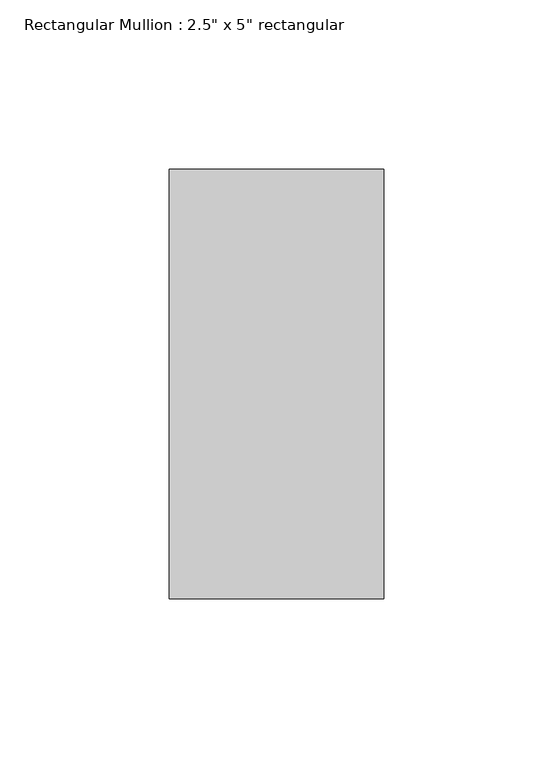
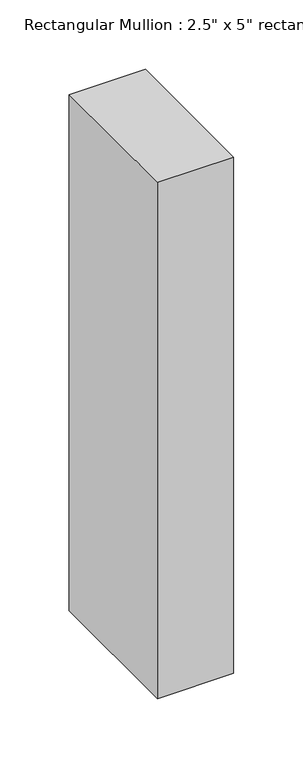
"""IFC4 building model written with IfcOpenShell, lengths in millimetres: member geometry."""

from ifc_helpers import new_model, si_unit, frame, origin, place, context, project, spatial, polyline, outline, extrude, source, transform, mapped, element, save


def member_1b14bcb5(model_context):
    return source(origin(), model_context, "Body", "SweptSolid", [
        extrude(outline(polyline([(31.75, 63.5), (31.75, -63.5), (-31.75, -63.5), (-31.75, 63.5), (31.75, 63.5)])), frame((0.0, 0.0, -453.8396838), z_axis=(0.0, 0.0, 1.0), x_axis=(1.0, 0.0, 0.0)), (0.0, 0.0, 1.0), 453.8396838),
    ])


if __name__ == "__main__":
    model = new_model("IFC4")
    model_context = context("Model", 3, world=origin())
    ifc_project = project(units=[si_unit("LENGTHUNIT", "METRE", prefix="MILLI")], contexts=[model_context])
    site = spatial("IfcSite", under=ifc_project)
    building = spatial("IfcBuilding", under=site)
    placement = place(None, origin())
    member_shape = member_1b14bcb5(model_context)
    element("IfcMember", 1, ObjectType="Rectangular Mullion : 2.5\" x 5\" rectangular", at=placement, inside=building, context=model_context, shape_type="MappedRepresentation", body=[
        mapped(member_shape, transform((0.0, 0.0, 0.0), x_axis=(1.0, 0.0, 0.0), y_axis=(0.0, 1.0, 0.0), z_axis=(0.0, 0.0, 1.0))),
    ])
    save(model, "model.ifc")
